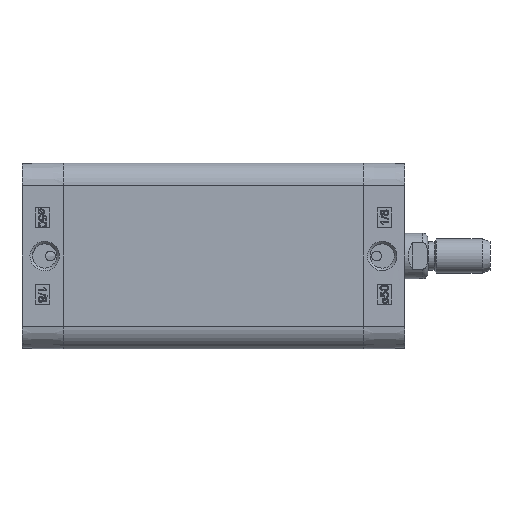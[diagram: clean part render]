
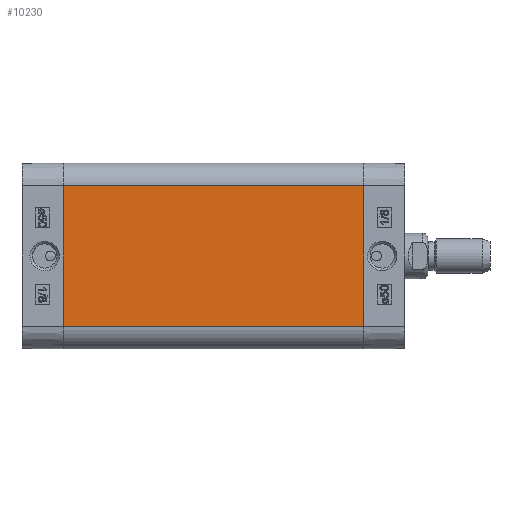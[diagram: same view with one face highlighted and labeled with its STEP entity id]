
A CAD part, left-side view. The second image highlights one B-rep face of the part: STEP entity #10230.
In plain terms, the highlighted planar face has unit normal (-1, 0, 0).
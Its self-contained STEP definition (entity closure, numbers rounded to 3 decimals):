
#5232=CARTESIAN_POINT('',(-32.75,-106.0,24.75));
#5233=VERTEX_POINT('',#5232);
#5240=CARTESIAN_POINT('',(-32.75,-106.0,-24.75));
#5241=VERTEX_POINT('',#5240);
#5242=CARTESIAN_POINT('',(-32.75,-106.0,-24.75));
#5243=DIRECTION('',(0.0,0.0,1.0));
#5244=VECTOR('',#5243,49.5);
#5245=LINE('',#5242,#5244);
#5246=EDGE_CURVE('',#5241,#5233,#5245,.T.);
#10188=CARTESIAN_POINT('',(-32.75,0.0,-24.75));
#10189=VERTEX_POINT('',#10188);
#10190=CARTESIAN_POINT('',(-32.75,0.0,-24.75));
#10191=DIRECTION('',(0.0,-1.0,0.0));
#10192=VECTOR('',#10191,106.0);
#10193=LINE('',#10190,#10192);
#10194=EDGE_CURVE('',#10189,#5241,#10193,.T.);
#10207=CARTESIAN_POINT('',(-32.75,0.0,-24.75));
#10208=DIRECTION('',(-1.0,0.0,0.0));
#10209=DIRECTION('',(0.0,0.0,1.0));
#10210=AXIS2_PLACEMENT_3D('',#10207,#10208,#10209);
#10211=PLANE('',#10210);
#10212=ORIENTED_EDGE('',*,*,#5246,.T.);
#10213=CARTESIAN_POINT('',(-32.75,0.0,24.75));
#10214=VERTEX_POINT('',#10213);
#10215=CARTESIAN_POINT('',(-32.75,0.0,24.75));
#10216=DIRECTION('',(0.0,-1.0,0.0));
#10217=VECTOR('',#10216,106.0);
#10218=LINE('',#10215,#10217);
#10219=EDGE_CURVE('',#10214,#5233,#10218,.T.);
#10220=ORIENTED_EDGE('',*,*,#10219,.F.);
#10221=CARTESIAN_POINT('',(-32.75,0.0,-24.75));
#10222=DIRECTION('',(0.0,0.0,1.0));
#10223=VECTOR('',#10222,49.5);
#10224=LINE('',#10221,#10223);
#10225=EDGE_CURVE('',#10189,#10214,#10224,.T.);
#10226=ORIENTED_EDGE('',*,*,#10225,.F.);
#10227=ORIENTED_EDGE('',*,*,#10194,.T.);
#10228=EDGE_LOOP('',(#10212,#10220,#10226,#10227));
#10229=FACE_OUTER_BOUND('',#10228,.T.);
#10230=ADVANCED_FACE('',(#10229),#10211,.T.);
